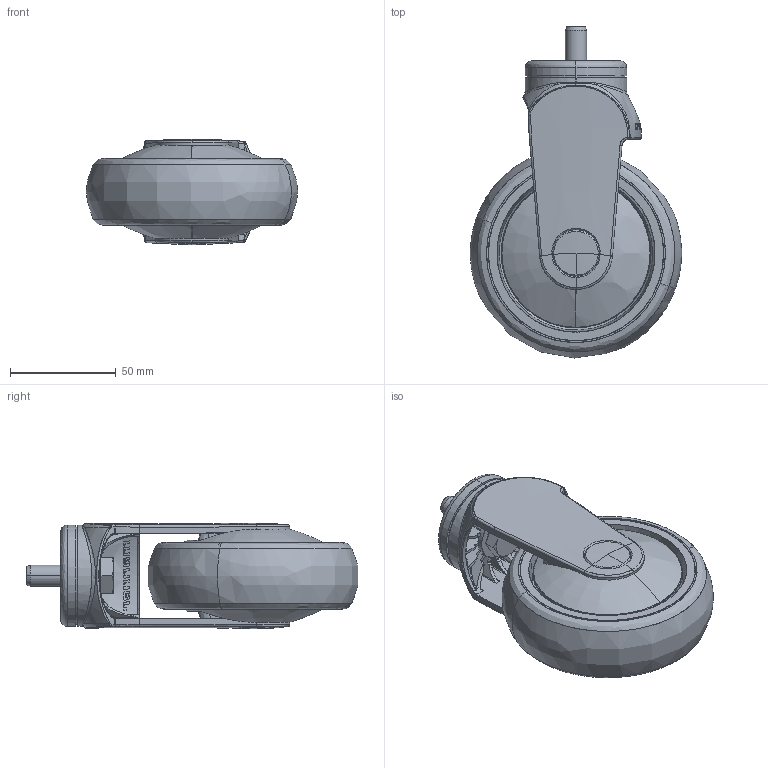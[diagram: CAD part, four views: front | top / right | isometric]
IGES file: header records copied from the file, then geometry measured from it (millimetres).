
Start section: SolidWorks IGES file using analytic representation for surfaces
Global section: file name: S:\Tyokansio\VL\301033_IGES.IGS; native system: SolidWorks 2011; preprocessor: SolidWorks 2011; author: VilleLa; date: 110622.123910; units: millimetre
Bounding box: 100 x 157.11 x 49.73 mm (x, y, z)
Surface area: 73916.4 mm2 (no closed solid volume)
Topology: 0 solids, 0 shells, 357 faces, 4796 edges, 4792 vertices
Faces by surface type: bspline 255, revolution 102
